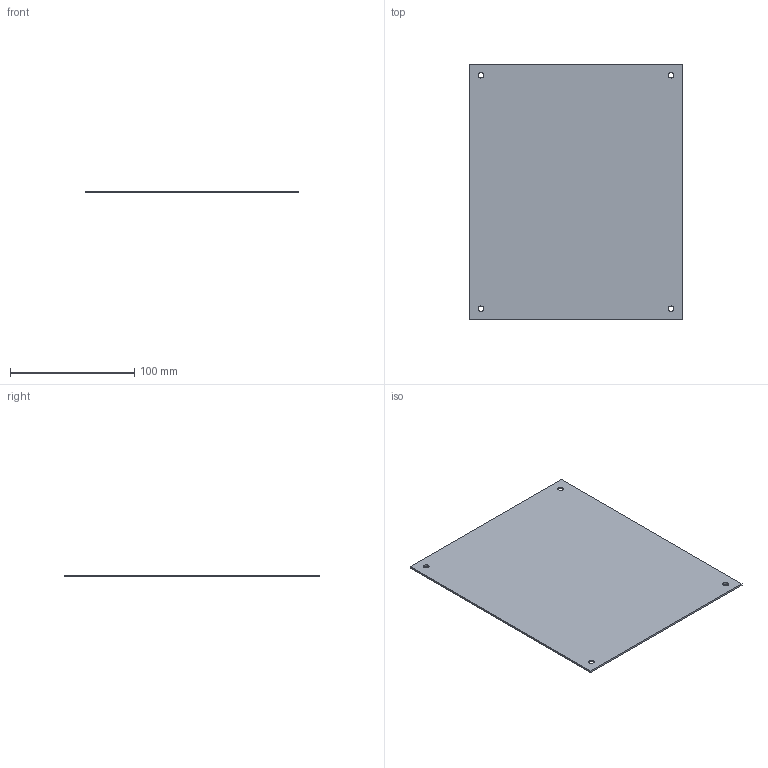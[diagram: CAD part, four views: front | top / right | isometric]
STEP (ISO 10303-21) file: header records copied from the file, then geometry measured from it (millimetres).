
FILE_DESCRIPTION(/* description */ (''),/* implementation_level */ '2;1');
FILE_NAME(/* name */ '4002366.stp',/* time_stamp */ '2019-10-29T08:08:19+01:00',/* author */ (''),/* organization */ (''),/* preprocessor_version */ 'ST-DEVELOPER v16.7',/* originating_system */ 'SIEMENS PLM Software NX 1888',/* authorisation */ '');
FILE_SCHEMA (('AUTOMOTIVE_DESIGN { 1 0 10303 214 3 1 1 1 }'));
Length unit declared in the file: millimetre
Products named in the file (1): BSOM3B98A10F4jx9
Bounding box: 172 x 206 x 1.5 mm (x, y, z)
Volume: 53052.6 mm3; surface area: 71955.6 mm2
Topology: 1 solids, 1 shells, 10 faces, 28 edges, 20 vertices
Faces by surface type: plane 6, cylinder 4
Full cylindrical faces by diameter (mm): 4.5 x4
Entity records: 324 total; most frequent: DIRECTION 50, CARTESIAN_POINT 47, ORIENTED_EDGE 40, EDGE_LOOP 22, EDGE_CURVE 20, AXIS2_PLACEMENT_3D 19, FACE_BOUND 18, VERTEX_POINT 16
